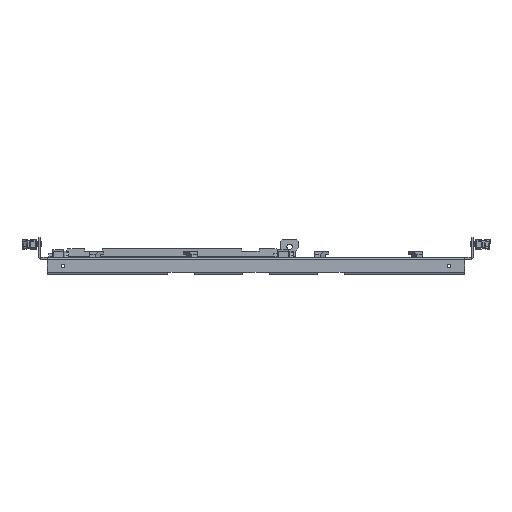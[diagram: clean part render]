
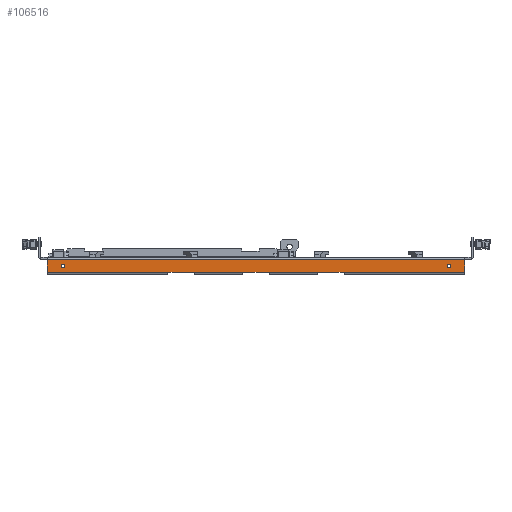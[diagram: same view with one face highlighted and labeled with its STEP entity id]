
A CAD part, front view. The second image highlights one B-rep face of the part: STEP entity #106516.
In plain terms, the highlighted planar face has unit normal (0, -1, 0).
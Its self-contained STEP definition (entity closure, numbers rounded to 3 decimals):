
#70691=CARTESIAN_POINT(' ',(239.5,-211.7,-2.6));
#70692=VERTEX_POINT(' ',#70691);
#70706=CARTESIAN_POINT(' ',(239.5,-211.7,-17.4));
#70711=DIRECTION(' ',(0.,0.,1.));
#70716=VECTOR(' ',#70711,1.);
#70721=LINE('',#70706,#70716);
#70726=CARTESIAN_POINT(' ',(239.5,-211.7,-17.4));
#70727=VERTEX_POINT(' ',#70726);
#70731=EDGE_CURVE(' ',#70727,#70692,#70721,.T.);
#71371=CARTESIAN_POINT(' ',(-239.5,-211.7,-17.4));
#71372=VERTEX_POINT(' ',#71371);
#71386=CARTESIAN_POINT(' ',(-239.5,-211.7,-2.6));
#71391=DIRECTION(' ',(0.,0.,-1.));
#71396=VECTOR(' ',#71391,1.);
#71401=LINE('',#71386,#71396);
#71406=CARTESIAN_POINT(' ',(-239.5,-211.7,-2.6));
#71407=VERTEX_POINT(' ',#71406);
#71411=EDGE_CURVE(' ',#71407,#71372,#71401,.T.);
#104916=CARTESIAN_POINT(' ',(-239.5,-211.7,-2.6));
#104921=DIRECTION(' ',(1.,0.,0.));
#104926=VECTOR(' ',#104921,1.);
#104931=LINE('',#104916,#104926);
#104936=EDGE_CURVE(' ',#71407,#70692,#104931,.T.);
#106046=DIRECTION(' ',(0.,-1.,0.));
#106051=CARTESIAN_POINT(' ',(-239.5,-211.7,-17.4));
#106056=DIRECTION(' ',(1.,0.,0.));
#106061=AXIS2_PLACEMENT_3D(' ',#106051,#106046,#106056);
#106066=PLANE('NONE',#106061);
#106071=ORIENTED_EDGE(' ',*,*,#104936,.F.);
#106076=ORIENTED_EDGE(' ',*,*,#71411,.T.);
#106081=CARTESIAN_POINT(' ',(-239.5,-211.7,-17.4));
#106086=DIRECTION(' ',(1.,0.,0.));
#106091=VECTOR(' ',#106086,1.);
#106096=LINE('',#106081,#106091);
#106101=CARTESIAN_POINT(' ',(-101.,-211.7,-17.4));
#106102=VERTEX_POINT(' ',#106101);
#106106=EDGE_CURVE(' ',#71372,#106102,#106096,.T.);
#106111=ORIENTED_EDGE(' ',*,*,#106106,.T.);
#106116=CARTESIAN_POINT(' ',(-71.,-211.7,-17.4));
#106121=DIRECTION(' ',(-1.,0.,0.));
#106126=VECTOR(' ',#106121,1.);
#106131=LINE('',#106116,#106126);
#106136=CARTESIAN_POINT(' ',(-71.,-211.7,-17.4));
#106137=VERTEX_POINT(' ',#106136);
#106141=EDGE_CURVE(' ',#106137,#106102,#106131,.T.);
#106146=ORIENTED_EDGE(' ',*,*,#106141,.F.);
#106151=CARTESIAN_POINT(' ',(-71.,-211.7,-17.4));
#106156=DIRECTION(' ',(1.,0.,0.));
#106161=VECTOR(' ',#106156,1.);
#106166=LINE('',#106151,#106161);
#106171=CARTESIAN_POINT(' ',(-15.,-211.7,-17.4));
#106172=VERTEX_POINT(' ',#106171);
#106176=EDGE_CURVE(' ',#106137,#106172,#106166,.T.);
#106181=ORIENTED_EDGE(' ',*,*,#106176,.T.);
#106186=CARTESIAN_POINT(' ',(15.,-211.7,-17.4));
#106191=DIRECTION(' ',(-1.,0.,0.));
#106196=VECTOR(' ',#106191,1.);
#106201=LINE('',#106186,#106196);
#106206=CARTESIAN_POINT(' ',(15.,-211.7,-17.4));
#106207=VERTEX_POINT(' ',#106206);
#106211=EDGE_CURVE(' ',#106207,#106172,#106201,.T.);
#106216=ORIENTED_EDGE(' ',*,*,#106211,.F.);
#106221=CARTESIAN_POINT(' ',(15.,-211.7,-17.4));
#106226=DIRECTION(' ',(1.,0.,0.));
#106231=VECTOR(' ',#106226,1.);
#106236=LINE('',#106221,#106231);
#106241=CARTESIAN_POINT(' ',(71.,-211.7,-17.4));
#106242=VERTEX_POINT(' ',#106241);
#106246=EDGE_CURVE(' ',#106207,#106242,#106236,.T.);
#106251=ORIENTED_EDGE(' ',*,*,#106246,.T.);
#106256=CARTESIAN_POINT(' ',(101.,-211.7,-17.4));
#106261=DIRECTION(' ',(-1.,0.,0.));
#106266=VECTOR(' ',#106261,1.);
#106271=LINE('',#106256,#106266);
#106276=CARTESIAN_POINT(' ',(101.,-211.7,-17.4));
#106277=VERTEX_POINT(' ',#106276);
#106281=EDGE_CURVE(' ',#106277,#106242,#106271,.T.);
#106286=ORIENTED_EDGE(' ',*,*,#106281,.F.);
#106291=CARTESIAN_POINT(' ',(101.,-211.7,-17.4));
#106296=DIRECTION(' ',(1.,0.,0.));
#106301=VECTOR(' ',#106296,1.);
#106306=LINE('',#106291,#106301);
#106311=EDGE_CURVE(' ',#106277,#70727,#106306,.T.);
#106316=ORIENTED_EDGE(' ',*,*,#106311,.T.);
#106321=ORIENTED_EDGE(' ',*,*,#70731,.T.);
#106326=EDGE_LOOP(' ',(#106071,#106076,#106111,#106146,#106181,#106216,#106251,#106286,#106316,#106321));
#106331=FACE_OUTER_BOUND(' ',#106326,.T.);
#106336=CARTESIAN_POINT(' ',(-221.5,-211.7,-10.));
#106341=DIRECTION(' ',(-0.,-1.,0.));
#106346=DIRECTION(' ',(0.,0.,-1.));
#106351=AXIS2_PLACEMENT_3D(' ',#106336,#106341,#106346);
#106356=CIRCLE('',#106351,2.2);
#106361=CARTESIAN_POINT(' ',(-221.5,-211.7,-12.2));
#106362=VERTEX_POINT(' ',#106361);
#106366=CARTESIAN_POINT(' ',(-221.5,-211.7,-7.8));
#106367=VERTEX_POINT(' ',#106366);
#106371=EDGE_CURVE(' ',#106362,#106367,#106356,.T.);
#106376=ORIENTED_EDGE(' ',*,*,#106371,.F.);
#106381=CARTESIAN_POINT(' ',(-221.5,-211.7,-10.));
#106386=DIRECTION(' ',(0.,-1.,0.));
#106391=DIRECTION(' ',(0.,0.,1.));
#106396=AXIS2_PLACEMENT_3D(' ',#106381,#106386,#106391);
#106401=CIRCLE('',#106396,2.2);
#106406=EDGE_CURVE(' ',#106367,#106362,#106401,.T.);
#106411=ORIENTED_EDGE(' ',*,*,#106406,.F.);
#106416=EDGE_LOOP(' ',(#106376,#106411));
#106421=FACE_BOUND(' ',#106416,.T.);
#106426=CARTESIAN_POINT(' ',(221.5,-211.7,-10.));
#106431=DIRECTION(' ',(-0.,-1.,0.));
#106436=DIRECTION(' ',(0.,0.,-1.));
#106441=AXIS2_PLACEMENT_3D(' ',#106426,#106431,#106436);
#106446=CIRCLE('',#106441,2.2);
#106451=CARTESIAN_POINT(' ',(221.5,-211.7,-12.2));
#106452=VERTEX_POINT(' ',#106451);
#106456=CARTESIAN_POINT(' ',(221.5,-211.7,-7.8));
#106457=VERTEX_POINT(' ',#106456);
#106461=EDGE_CURVE(' ',#106452,#106457,#106446,.T.);
#106466=ORIENTED_EDGE(' ',*,*,#106461,.F.);
#106471=CARTESIAN_POINT(' ',(221.5,-211.7,-10.));
#106476=DIRECTION(' ',(0.,-1.,0.));
#106481=DIRECTION(' ',(0.,0.,1.));
#106486=AXIS2_PLACEMENT_3D(' ',#106471,#106476,#106481);
#106491=CIRCLE('',#106486,2.2);
#106496=EDGE_CURVE(' ',#106457,#106452,#106491,.T.);
#106501=ORIENTED_EDGE(' ',*,*,#106496,.F.);
#106506=EDGE_LOOP(' ',(#106466,#106501));
#106511=FACE_BOUND(' ',#106506,.T.);
#106516=ADVANCED_FACE('NONE',(#106331,#106421,#106511),#106066,.T.);
